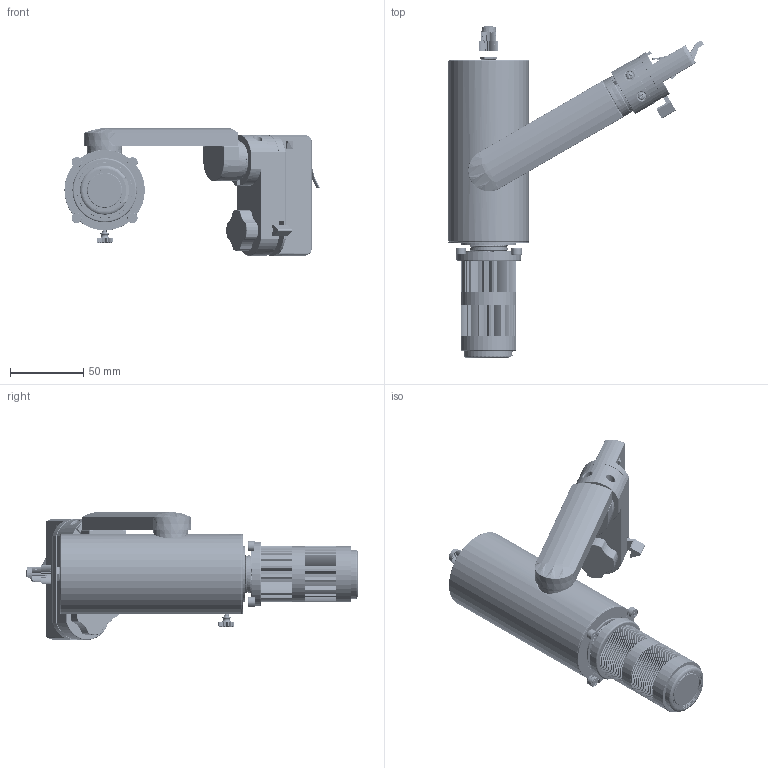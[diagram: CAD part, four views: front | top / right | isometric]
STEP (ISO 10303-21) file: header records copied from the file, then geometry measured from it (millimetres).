
FILE_DESCRIPTION((''),'2;1');
FILE_NAME('SHOWGUN-SPOT-2035-10W_ASM','2025-03-26T17:33:11',('ALY'),(''),'CREO PARAMETRIC BY PTC INC, 2022164','CREO PARAMETRIC BY PTC INC, 2022164','');
FILE_SCHEMA(('AUTOMOTIVE_DESIGN { 1 0 10303 214 1 1 1 1 }'));
Length unit declared in the file: millimetre
Products named in the file (52): 00; 0003; 0005; D35XD31X10001; D31-D350001; 0006; D220001_ASM; 000; 0008; D220004_ASM; 0009; M2-5X60001; 10001; _AF2; 20001; 30001; 10002; 20002; 0010_ASM; D38X2000; 20003; D32X2X0-3000; 10006; 10007; 10008; 10004_ASM; M2-5X30001; M2-5X40001; 0015; _AF10; 0016; 0014_ASM; 000_ASM; 0018; 0020; M10-0001; 002; 0023; 0024; D150001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
Assembly tree (75 placements, depth 4):
  SHOWGUN-SPOT-2035-10W_ASM
    00
    0003
    000_ASM
      0005
      D35XD31X10001  x4
      D31-D350001  x2
      D220001_ASM
        0006  x3
      000  x2
      0008
      D220004_ASM
        0006  x3
      0009
      M2-5X60001  x4
      10001
      _AF2  x4
      20001
      30001  x2
      0010_ASM  x4
        00
        10002
        20002
      00
      D38X2000
      20003
      D32X2X0-3000
      10004_ASM
        10006
        10007
        10008
      M2-5X30001  x2
      M2-5X40001
      0014_ASM
        0015
        _AF10
        0016
    0018
    00
    0020
    M10-0001
    002_ASM
      002
      0023
      0020
      0024
      D150001
      0025
      0026
      M3X8-0001
    10009
    D11X0-500
    0028
    20004
    M3X8-0001  x2
Bounding box: 174.45 x 226.9 x 87.5 mm (x, y, z)
Volume: 259009.4 mm3; surface area: 183883.4 mm2
Topology: 76 solids, 76 shells, 8833 faces, 24035 edges, 15925 vertices
Faces by surface type: plane 2838, cylinder 2820, bspline 2435, cone 574, torus 126, sphere 40
Entity records: 865387 total; most frequent: CARTESIAN_POINT 650006, ORIENTED_EDGE 38790, DIRECTION 23541, EDGE_CURVE 19395, VERTEX_POINT 12687, B_SPLINE_CURVE_WITH_KNOTS 8795, AXIS2_PLACEMENT_3D 7871, VECTOR 7799
